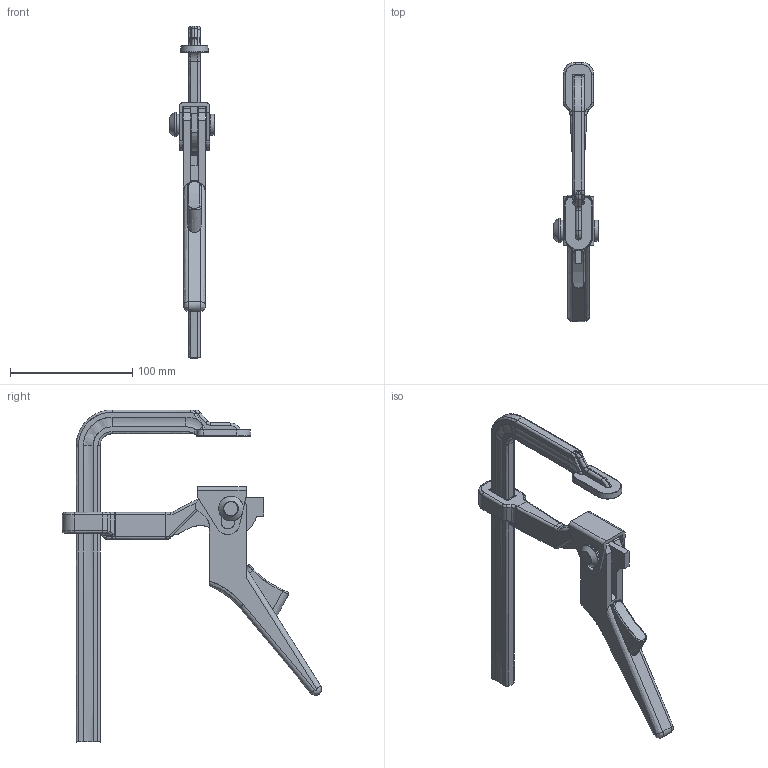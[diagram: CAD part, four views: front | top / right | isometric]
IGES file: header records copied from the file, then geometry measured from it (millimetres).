
Start section: ZWSOFT
Global section: file name: G20H.igs; native system: ZW3D; preprocessor: 1.0; author: ZW3D; organization: ZWSOFT; date: 110526.175013; units: millimetre
Bounding box: 37 x 211.55 x 271.09 mm (x, y, z)
Surface area: 61131.2 mm2 (no closed solid volume)
Topology: 0 solids, 0 shells, 331 faces, 1735 edges, 1726 vertices
Faces by surface type: bspline 331
